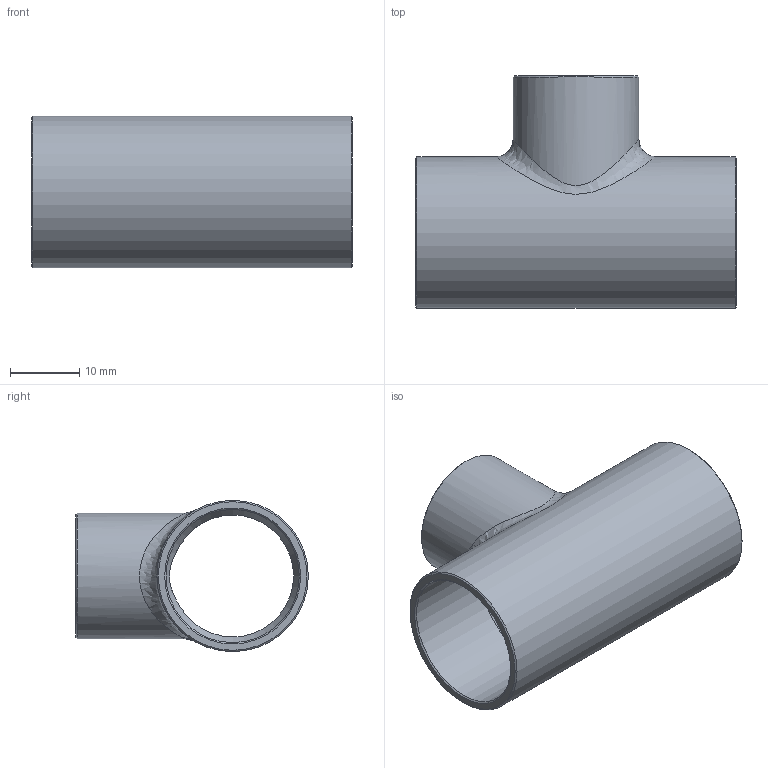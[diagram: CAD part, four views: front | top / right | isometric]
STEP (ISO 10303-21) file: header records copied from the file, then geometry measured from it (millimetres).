
FILE_DESCRIPTION((''),'2;1');
FILE_NAME('G:\SANHA-Ternat\Technik\Management\Bouwmaten + markeringen\z-maattekeningen 3D\29000s\29130345834_3d.stp','2017-08-07T16:23:53',('vdvijverd'),(''),'Autodesk Inventor 2009','Autodesk Inventor 2009','');
FILE_SCHEMA(('AUTOMOTIVE_DESIGN { 1 0 10303 214 1 1 1 1 }'));
Length unit declared in the file: millimetre
Products named in the file (1): 29130345834_3d
Bounding box: 46.2 x 33.5 x 21.8 mm (x, y, z)
Volume: 5181.6 mm3; surface area: 7109.5 mm2
Topology: 1 solids, 1 shells, 22 faces, 56 edges, 35 vertices
Faces by surface type: cone 8, cylinder 7, bspline 4, plane 3
Full cylindrical faces by diameter (mm): 15.995 x1, 18.1 x1, 19.17 x1, 21.8 x1
Entity records: 2223 total; most frequent: CARTESIAN_POINT 1776, DIRECTION 84, ORIENTED_EDGE 70, AXIS2_PLACEMENT_3D 42, EDGE_LOOP 40, EDGE_CURVE 35, VERTEX_POINT 29, CIRCLE 23
